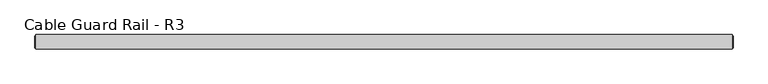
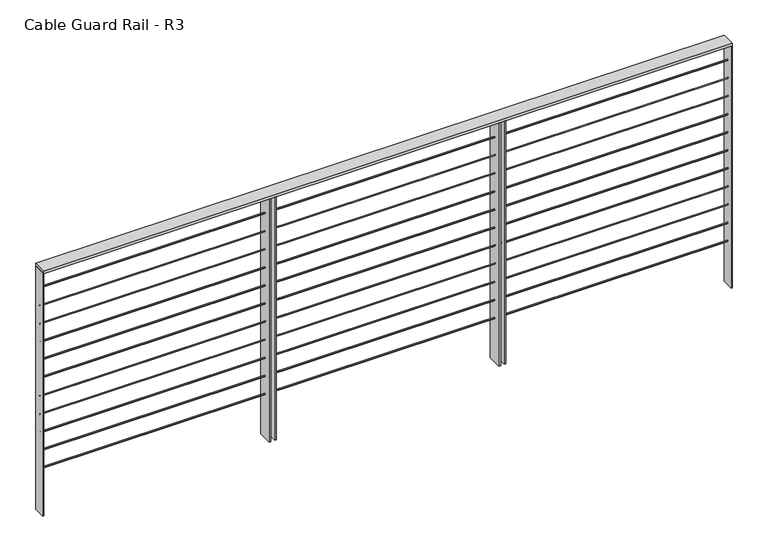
"""IFC4 building model written with IfcOpenShell, lengths in millimetres: railing geometry, Cable Guard Rail - R3."""

import ifcopenshell
import ifcopenshell.guid

model = None  # the IFC model being written
_history = None  # IfcOwnerHistory: only IFC2X3 demands one
_inside = {}  # id of a spatial element -> (the spatial element, [elements in it])
_under = {}  # id of a project, library or spatial element -> (it, [spatial elements below it])
_declared = {}  # id of a project -> (the project, [libraries it declares])
_typed = {}  # id of a type object -> (the type object, [elements of that type])
_made_of = {}  # id of a material, layer set ... -> (it, [elements and type objects made of it])


def new_model(schema):
    """Start an empty IFC model of exactly this schema.

    Asked for "IFC4X3", IfcOpenShell would pick the latest addendum, in which some entities
    have other attributes; the version numbers below select the first issue.
    IFC2X3 requires an IfcOwnerHistory on every rooted entity: one is made here for all.
    """
    global model, _history
    if schema == "IFC4X3":
        model = ifcopenshell.file(schema_version=(4, 3, 0, 0))
    else:
        model = ifcopenshell.file(schema=schema)
    _inside.clear()
    _under.clear()
    _declared.clear()
    _typed.clear()
    _made_of.clear()
    _history = None
    if model.schema == "IFC2X3":
        org = make("IfcOrganization", Name="unknown")
        user = make(
            "IfcPersonAndOrganization",
            ThePerson=make("IfcPerson", FamilyName="unknown"),
            TheOrganization=org,
        )
        app = make(
            "IfcApplication",
            ApplicationDeveloper=org,
            Version="unknown",
            ApplicationFullName="unknown",
            ApplicationIdentifier="unknown",
        )
        _history = make(
            "IfcOwnerHistory",
            OwningUser=user,
            OwningApplication=app,
            ChangeAction="ADDED",
            CreationDate=0,
        )
    return model


def make(cls, **values):
    """One entity of the class cls with the attributes given. An attribute that is None is left unset."""
    return model.create_entity(
        cls, **{name: value for name, value in values.items() if value is not None}
    )


def rooted(cls, **values):
    """An entity with a GlobalId (a new one), such as an element, a storey or a relation."""
    return make(cls, GlobalId=ifcopenshell.guid.new(), OwnerHistory=_history, **values)


def si_unit(unit_type, name, prefix=None):
    """IfcSIUnit, for example si_unit("LENGTHUNIT", "METRE", prefix="MILLI")."""
    return make("IfcSIUnit", UnitType=unit_type, Prefix=prefix, Name=name)


def assignment(units):
    """IfcUnitAssignment: the units of a project."""
    return None if units is None else make("IfcUnitAssignment", Units=units)


def point(xyz):
    """IfcCartesianPoint."""
    return None if xyz is None else make("IfcCartesianPoint", Coordinates=xyz)


def direction(xyz):
    """IfcDirection."""
    return None if xyz is None else make("IfcDirection", DirectionRatios=xyz)


def frame(location, z_axis=None, x_axis=None):
    """IfcAxis2Placement3D, a coordinate frame: its origin and axes. An axis left out is left unset."""
    return make(
        "IfcAxis2Placement3D",
        Location=point(location),
        Axis=direction(z_axis),
        RefDirection=direction(x_axis),
    )


def frame_2d(location, x_axis=None):
    """IfcAxis2Placement2D, a coordinate frame in the plane: its origin and x axis."""
    return make(
        "IfcAxis2Placement2D", Location=point(location), RefDirection=direction(x_axis)
    )


def origin():
    """The frame at (0, 0, 0) with its axes left unset."""
    return frame((0.0, 0.0, 0.0))


def place(relative_to, where):
    """IfcLocalPlacement: puts the frame where relative to a parent placement (None: the world)."""
    return make(
        "IfcLocalPlacement", PlacementRelTo=relative_to, RelativePlacement=where
    )


def context(
    kind, dimensions, precision=None, world=None, true_north=None, identifier=None
):
    """IfcGeometricRepresentationContext, for example the 3D "Model" context."""
    return make(
        "IfcGeometricRepresentationContext",
        ContextIdentifier=identifier,
        ContextType=kind,
        CoordinateSpaceDimension=dimensions,
        Precision=precision,
        WorldCoordinateSystem=world,
        TrueNorth=true_north,
    )


def project(units=None, contexts=None):
    """IfcProject with its units and contexts."""
    return rooted(
        "IfcProject",
        Name="project",
        RepresentationContexts=contexts,
        UnitsInContext=assignment(units),
    )


def spatial(cls, under=None, at=None, **own):
    """A site, building, storey or space (cls), placed at a placement, below another one or the project."""
    s = rooted(cls, ObjectPlacement=at, **own)
    if under is not None:
        _under.setdefault(under.id(), (under, []))[1].append(s)
    return s


def polyline(points):
    """IfcPolyline through the points."""
    return make("IfcPolyline", Points=[point(p) for p in points])


def circle_curve(where, radius):
    """IfcCircle in the frame where."""
    return make("IfcCircle", Position=where, Radius=radius)


def trimmed(basis, trim1, trim2, sense, master):
    """IfcTrimmedCurve: the piece of a basis curve between two trims."""
    return make(
        "IfcTrimmedCurve",
        BasisCurve=basis,
        Trim1=trim1,
        Trim2=trim2,
        SenseAgreement=sense,
        MasterRepresentation=master,
    )


def segment(curve, same_sense, transition):
    """IfcCompositeCurveSegment."""
    return make(
        "IfcCompositeCurveSegment",
        Transition=transition,
        SameSense=same_sense,
        ParentCurve=curve,
    )


def composite_curve(segments, self_intersect=None):
    """IfcCompositeCurve: segments joined end to end."""
    return make("IfcCompositeCurve", Segments=segments, SelfIntersect=self_intersect)


def outline(outer, holes=None, kind="AREA"):
    """IfcArbitraryClosedProfileDef: a profile drawn as a closed curve; with holes, ...WithVoids."""
    if holes is None:
        return make("IfcArbitraryClosedProfileDef", ProfileType=kind, OuterCurve=outer)
    return make(
        "IfcArbitraryProfileDefWithVoids",
        ProfileType=kind,
        OuterCurve=outer,
        InnerCurves=holes,
    )


def extrude(swept, where, along, depth):
    """IfcExtrudedAreaSolid: the profile swept, set in the frame where, extruded along a direction by depth."""
    return make(
        "IfcExtrudedAreaSolid",
        SweptArea=swept,
        Position=where,
        ExtrudedDirection=direction(along),
        Depth=depth,
    )


def shape(context_of_items, identifier, shape_type, items):
    """IfcShapeRepresentation: the items that make up one representation, for example the "Body"."""
    return make(
        "IfcShapeRepresentation",
        ContextOfItems=context_of_items,
        RepresentationIdentifier=identifier,
        RepresentationType=shape_type,
        Items=items,
    )


def source(mapping_origin, context_of_items, identifier, shape_type, items):
    """IfcRepresentationMap: a shape defined once, which mapped items show again and again."""
    return make(
        "IfcRepresentationMap",
        MappingOrigin=mapping_origin,
        MappedRepresentation=shape(context_of_items, identifier, shape_type, items),
    )


def transform(
    local_origin,
    x_axis=None,
    y_axis=None,
    z_axis=None,
    scale=None,
    scale2=None,
    scale3=None,
    uniform=True,
):
    """IfcCartesianTransformationOperator3D, or its non-uniform kind. x_axis, y_axis, z_axis: its Axis1, 2, 3."""
    if uniform:
        return make(
            "IfcCartesianTransformationOperator3D",
            Axis1=direction(x_axis),
            Axis2=direction(y_axis),
            LocalOrigin=point(local_origin),
            Scale=scale,
            Axis3=direction(z_axis),
        )
    return make(
        "IfcCartesianTransformationOperator3DnonUniform",
        Axis1=direction(x_axis),
        Axis2=direction(y_axis),
        LocalOrigin=point(local_origin),
        Scale=scale,
        Axis3=direction(z_axis),
        Scale2=scale2,
        Scale3=scale3,
    )


def mapped(mapping_source, mapping_target):
    """IfcMappedItem: shows the shape of a source again, moved by a transform."""
    return make(
        "IfcMappedItem", MappingSource=mapping_source, MappingTarget=mapping_target
    )


def made_of(thing, what):
    """Note that an element or type object is made of a material, layer set ...; save() writes the relation."""
    if what is not None:
        _made_of.setdefault(what.id(), (what, []))[1].append(thing)
    return thing


def element(
    cls,
    number,
    at=None,
    inside=None,
    cuts=None,
    type_object=None,
    material=None,
    context=None,
    identifier="Body",
    shape_type=None,
    held_by="IfcProductDefinitionShape",
    body=None,
    shapes=None,
    **own,
):
    """One element of the class cls, such as IfcWall. Its Tag is "e" and its number.

    at: its placement. inside: the storey or other place that contains it. cuts: it is an
    opening in that element (IfcRelVoidsElement). A single representation is given by context,
    identifier, shape_type and body (its items); several are given by shapes. held_by: the class
    of the entity that holds the representations. save() writes the other relations.
    """
    e = rooted(cls, Tag="e%d" % number, ObjectPlacement=at, **own)
    if body is not None:
        shapes = [shape(context, identifier, shape_type, body)]
    if shapes is not None:
        e.Representation = make(held_by, Representations=shapes)
    if inside is not None:
        _inside.setdefault(inside.id(), (inside, []))[1].append(e)
    if cuts is not None:
        rooted(
            "IfcRelVoidsElement", RelatingBuildingElement=cuts, RelatedOpeningElement=e
        )
    if type_object is not None:
        _typed.setdefault(type_object.id(), (type_object, []))[1].append(e)
    return made_of(e, material)


def aggregate(whole, parts):
    """IfcRelAggregates: a whole, such as a stair, and the parts it consists of."""
    return rooted("IfcRelAggregates", RelatingObject=whole, RelatedObjects=parts)


def save(model, path):
    """Write the relations noted so far, then the file.

    IfcRelAggregates (storeys below a building ...), IfcRelContainedInSpatialStructure (elements
    in a storey), IfcRelDefinesByType, IfcRelAssociatesMaterial and IfcRelDeclares: one each for
    every whole, place, type object, material and project.
    """
    for whole, parts in _under.values():
        aggregate(whole, parts)
    for where, things in _inside.values():
        rooted(
            "IfcRelContainedInSpatialStructure",
            RelatedElements=things,
            RelatingStructure=where,
        )
    for kind, things in _typed.values():
        rooted("IfcRelDefinesByType", RelatedObjects=things, RelatingType=kind)
    for what, things in _made_of.values():
        rooted("IfcRelAssociatesMaterial", RelatedObjects=things, RelatingMaterial=what)
    for by, libraries in _declared.values():
        rooted("IfcRelDeclares", RelatingContext=by, RelatedDefinitions=libraries)
    model.write(path)


def cable_guard_rail_r3_9c4b2342(model_context):
    return source(origin(), model_context, "Body", "SweptSolid", [
        extrude(outline(polyline([(25549.2728313, 226436.3909796), (25549.2728313, 226512.5909796), (29206.8728313, 226512.5909796), (29206.8728313, 226436.3909796), (25549.2728313, 226436.3909796)])), frame((0.0, 0.0, 295315.2166667), z_axis=(0.0, 0.0, 1.0), x_axis=(1.0, 0.0, 0.0)), (0.0, 0.0, 1.0), 12.7),
        extrude(outline(composite_curve([segment(trimmed(circle_curve(frame_2d((226474.4909796, 295213.6166667)), 3.175), [point((226471.3159796, 295213.6166667))], [point((226477.6659796, 295213.6166667))], False, "CARTESIAN"), True, "CONTINUOUS"), segment(trimmed(circle_curve(frame_2d((226474.4909796, 295213.6166667)), 3.175), [point((226477.6659796, 295213.6166667))], [point((226471.3159796, 295213.6166667))], False, "CARTESIAN"), True, "CONTINUOUS")], self_intersect=False)), frame((25549.2728313, 0.0, 0.0), z_axis=(1.0, 0.0, 0.0), x_axis=(0.0, 1.0, 0.0)), (0.0, 0.0, 1.0), 3657.6),
        extrude(outline(composite_curve([segment(trimmed(circle_curve(frame_2d((226474.4909796, 295112.0166667)), 3.175), [point((226471.3159796, 295112.0166667))], [point((226477.6659796, 295112.0166667))], False, "CARTESIAN"), True, "CONTINUOUS"), segment(trimmed(circle_curve(frame_2d((226474.4909796, 295112.0166667)), 3.175), [point((226477.6659796, 295112.0166667))], [point((226471.3159796, 295112.0166667))], False, "CARTESIAN"), True, "CONTINUOUS")], self_intersect=False)), frame((25549.2728313, 0.0, 0.0), z_axis=(1.0, 0.0, 0.0), x_axis=(0.0, 1.0, 0.0)), (0.0, 0.0, 1.0), 3657.6),
        extrude(outline(composite_curve([segment(trimmed(circle_curve(frame_2d((226474.4909796, 295010.4166667)), 3.175), [point((226471.3159796, 295010.4166667))], [point((226477.6659796, 295010.4166667))], False, "CARTESIAN"), True, "CONTINUOUS"), segment(trimmed(circle_curve(frame_2d((226474.4909796, 295010.4166667)), 3.175), [point((226477.6659796, 295010.4166667))], [point((226471.3159796, 295010.4166667))], False, "CARTESIAN"), True, "CONTINUOUS")], self_intersect=False)), frame((25549.2728313, 0.0, 0.0), z_axis=(1.0, 0.0, 0.0), x_axis=(0.0, 1.0, 0.0)), (0.0, 0.0, 1.0), 3657.6),
        extrude(outline(composite_curve([segment(trimmed(circle_curve(frame_2d((226474.4909796, 294908.8166667)), 3.175), [point((226471.3159796, 294908.8166667))], [point((226477.6659796, 294908.8166667))], False, "CARTESIAN"), True, "CONTINUOUS"), segment(trimmed(circle_curve(frame_2d((226474.4909796, 294908.8166667)), 3.175), [point((226477.6659796, 294908.8166667))], [point((226471.3159796, 294908.8166667))], False, "CARTESIAN"), True, "CONTINUOUS")], self_intersect=False)), frame((25549.2728313, 0.0, 0.0), z_axis=(1.0, 0.0, 0.0), x_axis=(0.0, 1.0, 0.0)), (0.0, 0.0, 1.0), 3657.6),
        extrude(outline(composite_curve([segment(trimmed(circle_curve(frame_2d((226474.4909796, 294807.2166667)), 3.175), [point((226471.3159796, 294807.2166667))], [point((226477.6659796, 294807.2166667))], False, "CARTESIAN"), True, "CONTINUOUS"), segment(trimmed(circle_curve(frame_2d((226474.4909796, 294807.2166667)), 3.175), [point((226477.6659796, 294807.2166667))], [point((226471.3159796, 294807.2166667))], False, "CARTESIAN"), True, "CONTINUOUS")], self_intersect=False)), frame((25549.2728313, 0.0, 0.0), z_axis=(1.0, 0.0, 0.0), x_axis=(0.0, 1.0, 0.0)), (0.0, 0.0, 1.0), 3657.6),
        extrude(outline(composite_curve([segment(trimmed(circle_curve(frame_2d((226474.4909796, 294705.6166667)), 3.175), [point((226471.3159796, 294705.6166667))], [point((226477.6659796, 294705.6166667))], False, "CARTESIAN"), True, "CONTINUOUS"), segment(trimmed(circle_curve(frame_2d((226474.4909796, 294705.6166667)), 3.175), [point((226477.6659796, 294705.6166667))], [point((226471.3159796, 294705.6166667))], False, "CARTESIAN"), True, "CONTINUOUS")], self_intersect=False)), frame((25549.2728313, 0.0, 0.0), z_axis=(1.0, 0.0, 0.0), x_axis=(0.0, 1.0, 0.0)), (0.0, 0.0, 1.0), 3657.6),
        extrude(outline(composite_curve([segment(trimmed(circle_curve(frame_2d((226474.4909796, 294604.0166667)), 3.175), [point((226471.3159796, 294604.0166667))], [point((226477.6659796, 294604.0166667))], False, "CARTESIAN"), True, "CONTINUOUS"), segment(trimmed(circle_curve(frame_2d((226474.4909796, 294604.0166667)), 3.175), [point((226477.6659796, 294604.0166667))], [point((226471.3159796, 294604.0166667))], False, "CARTESIAN"), True, "CONTINUOUS")], self_intersect=False)), frame((25549.2728313, 0.0, 0.0), z_axis=(1.0, 0.0, 0.0), x_axis=(0.0, 1.0, 0.0)), (0.0, 0.0, 1.0), 3657.6),
        extrude(outline(composite_curve([segment(trimmed(circle_curve(frame_2d((226474.4909796, 294502.4166667)), 3.175), [point((226471.3159796, 294502.4166667))], [point((226477.6659796, 294502.4166667))], False, "CARTESIAN"), True, "CONTINUOUS"), segment(trimmed(circle_curve(frame_2d((226474.4909796, 294502.4166667)), 3.175), [point((226477.6659796, 294502.4166667))], [point((226471.3159796, 294502.4166667))], False, "CARTESIAN"), True, "CONTINUOUS")], self_intersect=False)), frame((25549.2728313, 0.0, 0.0), z_axis=(1.0, 0.0, 0.0), x_axis=(0.0, 1.0, 0.0)), (0.0, 0.0, 1.0), 3657.6),
        extrude(outline(composite_curve([segment(trimmed(circle_curve(frame_2d((226474.4909796, 294400.8166667)), 3.175), [point((226471.3159796, 294400.8166667))], [point((226477.6659796, 294400.8166667))], False, "CARTESIAN"), True, "CONTINUOUS"), segment(trimmed(circle_curve(frame_2d((226474.4909796, 294400.8166667)), 3.175), [point((226477.6659796, 294400.8166667))], [point((226471.3159796, 294400.8166667))], False, "CARTESIAN"), True, "CONTINUOUS")], self_intersect=False)), frame((25549.2728313, 0.0, 0.0), z_axis=(1.0, 0.0, 0.0), x_axis=(0.0, 1.0, 0.0)), (0.0, 0.0, 1.0), 3657.6),
        extrude(outline(composite_curve([segment(trimmed(circle_curve(frame_2d((226474.4909796, 294299.2166667)), 3.175), [point((226471.3159796, 294299.2166667))], [point((226477.6659796, 294299.2166667))], False, "CARTESIAN"), True, "CONTINUOUS"), segment(trimmed(circle_curve(frame_2d((226474.4909796, 294299.2166667)), 3.175), [point((226477.6659796, 294299.2166667))], [point((226471.3159796, 294299.2166667))], False, "CARTESIAN"), True, "CONTINUOUS")], self_intersect=False)), frame((25549.2728313, 0.0, 0.0), z_axis=(1.0, 0.0, 0.0), x_axis=(0.0, 1.0, 0.0)), (0.0, 0.0, 1.0), 3657.6),
        extrude(outline(composite_curve([segment(trimmed(circle_curve(frame_2d((226474.4909796, 294197.6166667)), 3.175), [point((226471.3159796, 294197.6166667))], [point((226477.6659796, 294197.6166667))], False, "CARTESIAN"), True, "CONTINUOUS"), segment(trimmed(circle_curve(frame_2d((226474.4909796, 294197.6166667)), 3.175), [point((226477.6659796, 294197.6166667))], [point((226471.3159796, 294197.6166667))], False, "CARTESIAN"), True, "CONTINUOUS")], self_intersect=False)), frame((25549.2728313, 0.0, 0.0), z_axis=(1.0, 0.0, 0.0), x_axis=(0.0, 1.0, 0.0)), (0.0, 0.0, 1.0), 3657.6),
        extrude(outline(polyline([(27965.4478313, 226436.3909796), (27965.4478313, 226512.5909796), (27974.9728313, 226512.5909796), (27974.9728313, 226436.3909796), (27965.4478313, 226436.3909796)])), frame((0.0, 0.0, 293949.9666667), z_axis=(0.0, 0.0, 1.0), x_axis=(1.0, 0.0, 0.0)), (0.0, 0.0, 1.0), 1365.25),
        extrude(outline(polyline([(27994.0228313, 226436.3909796), (27994.0228313, 226512.5909796), (28003.4995959, 226512.5909796), (28003.4995959, 226436.3909796), (27994.0228313, 226436.3909796)])), frame((0.0, 0.0, 293949.9666667), z_axis=(0.0, 0.0, 1.0), x_axis=(1.0, 0.0, 0.0)), (0.0, 0.0, 1.0), 1365.25),
        extrude(outline(polyline([(26746.2478313, 226436.3909796), (26746.2478313, 226512.5909796), (26755.7728313, 226512.5909796), (26755.7728313, 226436.3909796), (26746.2478313, 226436.3909796)])), frame((0.0, 0.0, 293949.9666667), z_axis=(0.0, 0.0, 1.0), x_axis=(1.0, 0.0, 0.0)), (0.0, 0.0, 1.0), 1365.25),
        extrude(outline(polyline([(26774.8228313, 226436.3909796), (26774.8228313, 226512.5909796), (26784.2995959, 226512.5909796), (26784.2995959, 226436.3909796), (26774.8228313, 226436.3909796)])), frame((0.0, 0.0, 293949.9666667), z_axis=(0.0, 0.0, 1.0), x_axis=(1.0, 0.0, 0.0)), (0.0, 0.0, 1.0), 1365.25),
        extrude(outline(polyline([(29203.6978313, 226442.7409796), (29203.6978313, 226506.2409796), (29210.0478313, 226506.2409796), (29210.0478313, 226442.7409796), (29203.6978313, 226442.7409796)])), frame((0.0, 0.0, 293949.9666667), z_axis=(0.0, 0.0, 1.0), x_axis=(1.0, 0.0, 0.0)), (0.0, 0.0, 1.0), 1365.25),
        extrude(outline(polyline([(25546.0978313, 226442.7409796), (25546.0978313, 226506.2409796), (25552.4478313, 226506.2409796), (25552.4478313, 226442.7409796), (25546.0978313, 226442.7409796)])), frame((0.0, 0.0, 293949.9666667), z_axis=(0.0, 0.0, 1.0), x_axis=(1.0, 0.0, 0.0)), (0.0, 0.0, 1.0), 1365.25),
    ])


if __name__ == "__main__":
    model = new_model("IFC4")
    model_context = context("Model", 3, world=origin())
    ifc_project = project(units=[si_unit("LENGTHUNIT", "METRE", prefix="MILLI")], contexts=[model_context])
    site = spatial("IfcSite", under=ifc_project)
    building = spatial("IfcBuilding", under=site)
    placement = place(None, origin())
    cable_guard_rail_r3_shape = cable_guard_rail_r3_9c4b2342(model_context)
    element("IfcRailing", 1, ObjectType="Cable Guard Rail - R3", at=placement, inside=building, context=model_context, shape_type="MappedRepresentation", body=[
        mapped(cable_guard_rail_r3_shape, transform((0.0, 0.0, 0.0), x_axis=(1.0, 0.0, 0.0), y_axis=(0.0, 1.0, 0.0), z_axis=(0.0, 0.0, 1.0))),
    ])
    save(model, "model.ifc")
